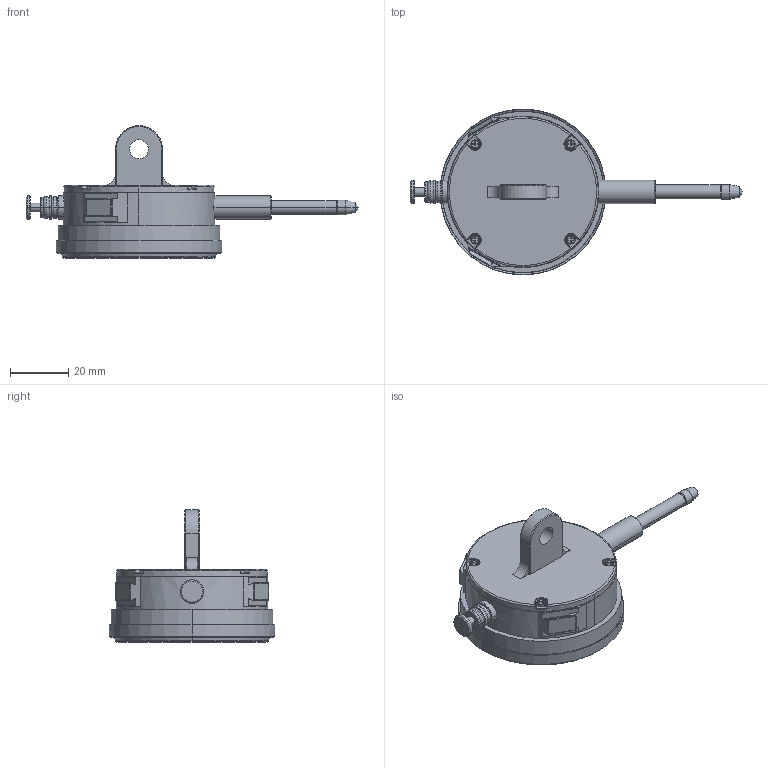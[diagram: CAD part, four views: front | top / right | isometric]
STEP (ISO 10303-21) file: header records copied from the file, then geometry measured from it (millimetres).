
FILE_DESCRIPTION(('Creo Elements/Direct Modeling STEP Export'),'2;1');
FILE_NAME('2050S.stp','2020-03-23T10:22:08',(''),(''),'Creo Elements/Direct Modeling STEP processor for AP214 (Solid Model)','Creo Elements/Direct Modeling 18.1I 13-Aug-2016 (C) Parametric Technology GmbH','');
FILE_SCHEMA(('AUTOMOTIVE_DESIGN { 1 0 10303 214 1 1 1 1 }'));
Length unit declared in the file: millimetre
Products named in the file (2): 2050S
Assembly tree (1 placements, depth 2):
  2050S
    2050S
Bounding box: 114 x 56.99 x 45.53 mm (x, y, z)
Volume: 60056.5 mm3; surface area: 11662 mm2
Topology: 1 solids, 1 shells, 320 faces, 770 edges, 475 vertices
Faces by surface type: plane 132, cylinder 84, cone 42, bspline 32, torus 28, sphere 2
Entity records: 14126 total; most frequent: CARTESIAN_POINT 7146, ORIENTED_EDGE 1536, DIRECTION 1320, EDGE_CURVE 768, VERTEX_POINT 475, AXIS2_PLACEMENT_3D 461, VECTOR 398, LINE 398
